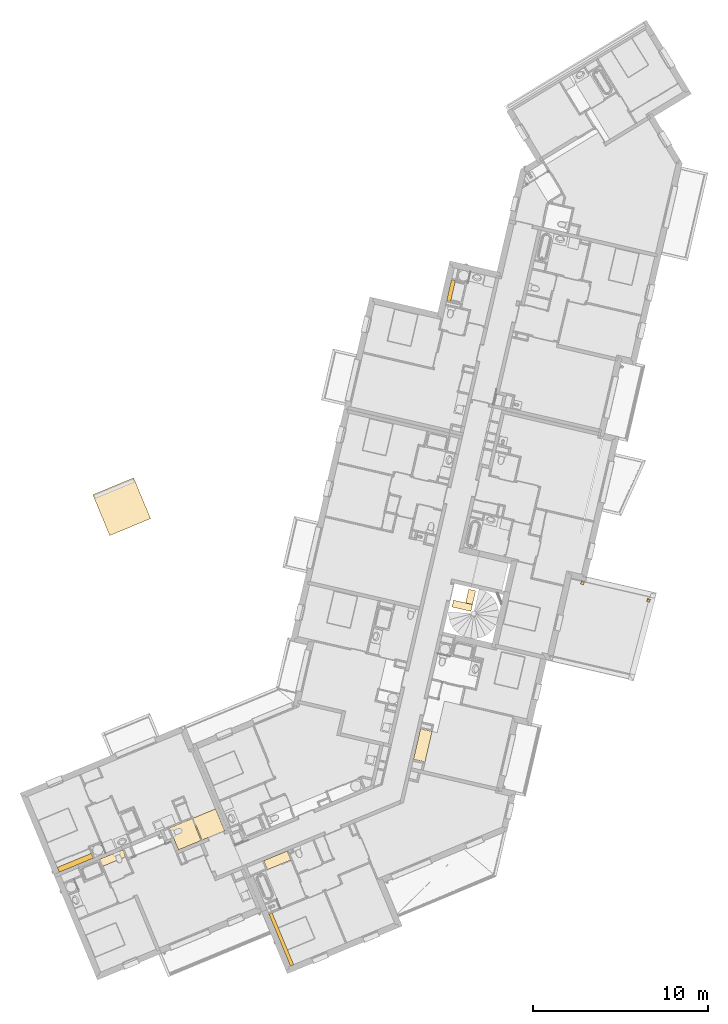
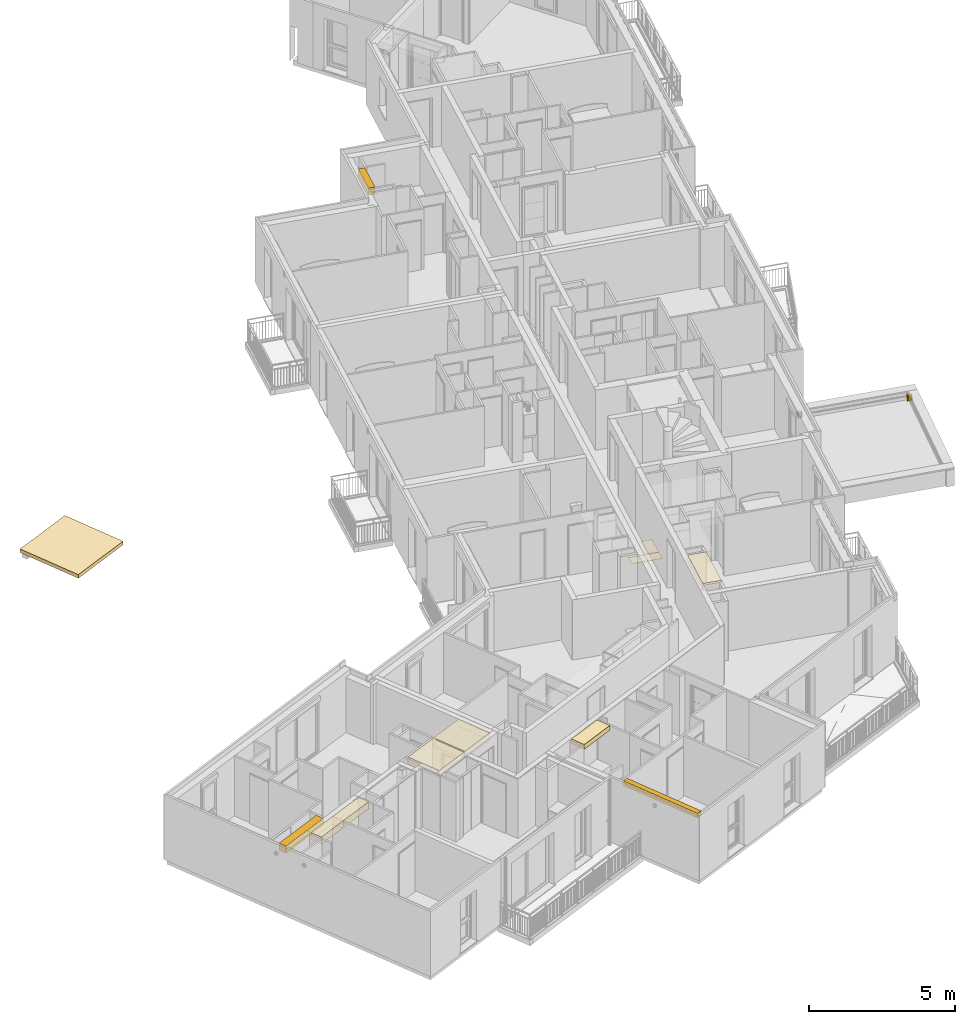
# One storey, part 59 of 90: 12 coverings.
"""IFC2X3 building model written with IfcOpenShell, lengths in metres."""

from ifc_helpers import new_model, entity, si_unit, converted_unit, derived_unit, money_unit, direction, frame, origin_with_axes, place, context, subcontext, project, spatial, faceted_brep, source, transform, mapped, material, type_object, element, save


model = new_model("IFC2X3")

# Units and contexts
model_context = context("Model", 3, precision=1e-05, world=origin_with_axes(), true_north=direction((0.0, 1.0)))
body_context = subcontext(model_context, "Body", "Model", "MODEL_VIEW")
ifc_project = project(units=[si_unit("LENGTHUNIT", "METRE"), si_unit("AREAUNIT", "SQUARE_METRE"), si_unit("VOLUMEUNIT", "CUBIC_METRE"), converted_unit("PLANEANGLEUNIT", "DEGREE", entity("IfcPlaneAngleMeasure", 0.0174532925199), si_unit("PLANEANGLEUNIT", "RADIAN"), dimensions=[0, 0, 0, 0, 0, 0, 0]), si_unit("SOLIDANGLEUNIT", "STERADIAN"), money_unit("EUR"), converted_unit("TIMEUNIT", "Year", entity("IfcTimeMeasure", 31556926.0), si_unit("TIMEUNIT", "SECOND"), dimensions=[0, 0, 1, 0, 0, 0, 0]), si_unit("MASSUNIT", "GRAM", prefix="KILO"), si_unit("THERMODYNAMICTEMPERATUREUNIT", "DEGREE_CELSIUS"), si_unit("LUMINOUSINTENSITYUNIT", "LUMEN"), si_unit("ENERGYUNIT", "JOULE", prefix="MEGA"), derived_unit("THERMALCONDUCTANCEUNIT", [(si_unit("POWERUNIT", "WATT"), 1), (si_unit("LENGTHUNIT", "METRE"), -1), (si_unit("THERMODYNAMICTEMPERATUREUNIT", "KELVIN"), -1)]), derived_unit("SPECIFICHEATCAPACITYUNIT", [(si_unit("ENERGYUNIT", "JOULE"), 1), (si_unit("MASSUNIT", "GRAM", prefix="KILO"), -1), (si_unit("THERMODYNAMICTEMPERATUREUNIT", "KELVIN"), -1)]), derived_unit("MASSDENSITYUNIT", [(si_unit("MASSUNIT", "GRAM", prefix="KILO"), 1), (si_unit("VOLUMEUNIT", "CUBIC_METRE"), -1)])], contexts=[model_context])

# Site, building, storey
site_placement = place(None, origin_with_axes())
site = spatial("IfcSite", under=ifc_project, at=site_placement, Name="Site", CompositionType="ELEMENT")
building_placement = place(site_placement, origin_with_axes())
building = spatial("IfcBuilding", under=site, at=building_placement, Name="Bâtiment", CompositionType="ELEMENT")
storey_placement = place(building_placement, frame((0.0, 0.0, 2.72), z_axis=(0.0, 0.0, 1.0), x_axis=(1.0, 0.0, 0.0)))
storey = spatial("IfcBuildingStorey", under=building, at=storey_placement, Name="R+1", CompositionType="ELEMENT", Elevation=2.72)

# Coverings
ifc_material_1 = material(Name="Volume - Etude")
covering_type_1 = type_object("IfcCoveringType", Name="Evacuation EP terrasse", PredefinedType="FLOORING")
shared_shape_1 = source(origin_with_axes(), body_context, "Body", "Brep", [
    faceted_brep([(0.0522327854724, 0.0878658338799, 0.2), (0.0522327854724, 0.0878658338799, 0.0), (0.058702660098, 0.0767838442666, 0.0), (0.058702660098, 0.0767838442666, 0.2), (0.0477467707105, 0.0998885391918, 0.2), (0.0477467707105, 0.0998885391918, 0.0), (0.045375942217, 0.1125, 0.0), (0.0, 0.1125, 0.0), (0.0, 0.1275, 0.0), (0.045375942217, 0.1275, 0.0), (0.0477467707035, 0.140111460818, 0.0), (0.0522327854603, 0.15213416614, 0.0), (0.0587026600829, 0.163216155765, 0.0), (0.066966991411, 0.173033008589, 0.0), (0.0767838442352, 0.181297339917, 0.0), (0.0878658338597, 0.18776721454, 0.0), (0.0998885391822, 0.192253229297, 0.0), (0.1125, 0.194624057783, 0.0), (0.1125, 0.24, 0.0), (0.1275, 0.24, 0.0), (0.1275, 0.194624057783, 0.0), (0.140111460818, 0.192253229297, 0.0), (0.15213416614, 0.18776721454, 0.0), (0.163216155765, 0.181297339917, 0.0), (0.173033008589, 0.173033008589, 0.0), (0.181297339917, 0.163216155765, 0.0), (0.18776721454, 0.15213416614, 0.0), (0.192253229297, 0.140111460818, 0.0), (0.194624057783, 0.1275, 0.0), (0.24, 0.1275, 0.0), (0.24, 0.1125, 0.0), (0.194624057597, 0.1125, 0.0), (0.192253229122, 0.099888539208, 0.0), (0.187767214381, 0.0878658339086, 0.0), (0.181297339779, 0.0767838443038, 0.0), (0.173033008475, 0.0669669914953, 0.0), (0.163216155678, 0.058702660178, 0.0), (0.152134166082, 0.0522327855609, 0.0), (0.140111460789, 0.0477467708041, 0.0), (0.1275, 0.045375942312, 0.0), (0.1275, 0.0, 0.0), (0.1125, 0.0, 0.0), (0.1125, 0.0453759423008, 0.0), (0.0998885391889, 0.0477467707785, 0.0), (0.0878658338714, 0.0522327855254, 0.0), (0.07678384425, 0.0587026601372, 0.0), (0.066966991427, 0.066966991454, 0.0), (0.066966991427, 0.066966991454, 0.2), (0.07678384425, 0.0587026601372, 0.2), (0.0878658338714, 0.0522327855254, 0.2), (0.0998885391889, 0.0477467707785, 0.2), (0.1125, 0.0453759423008, 0.2), (0.1125, 0.0, 0.2), (0.1275, 0.0, 0.2), (0.1275, 0.045375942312, 0.2), (0.140111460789, 0.0477467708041, 0.2), (0.152134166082, 0.0522327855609, 0.2), (0.163216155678, 0.058702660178, 0.2), (0.173033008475, 0.0669669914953, 0.2), (0.181297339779, 0.0767838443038, 0.2), (0.187767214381, 0.0878658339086, 0.2), (0.192253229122, 0.099888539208, 0.2), (0.194624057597, 0.1125, 0.2), (0.24, 0.1125, 0.2), (0.24, 0.1275, 0.2), (0.194624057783, 0.1275, 0.2), (0.192253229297, 0.140111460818, 0.2), (0.18776721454, 0.15213416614, 0.2), (0.181297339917, 0.163216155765, 0.2), (0.173033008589, 0.173033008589, 0.2), (0.163216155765, 0.181297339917, 0.2), (0.15213416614, 0.18776721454, 0.2), (0.140111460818, 0.192253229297, 0.2), (0.1275, 0.194624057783, 0.2), (0.1275, 0.24, 0.2), (0.1125, 0.24, 0.2), (0.1125, 0.194624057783, 0.2), (0.0998885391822, 0.192253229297, 0.2), (0.0878658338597, 0.18776721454, 0.2), (0.0767838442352, 0.181297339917, 0.2), (0.066966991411, 0.173033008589, 0.2), (0.0587026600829, 0.163216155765, 0.2), (0.0522327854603, 0.15213416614, 0.2), (0.0477467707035, 0.140111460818, 0.2), (0.045375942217, 0.1275, 0.2), (0.0, 0.1275, 0.2), (0.0, 0.1125, 0.2), (0.045375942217, 0.1125, 0.2)], [[[0, 1, 2, 3]], [[4, 5, 1, 0]], [[1, 5, 6, 7, 8, 9, 10, 11, 12, 13, 14, 15, 16, 17, 18, 19, 20, 21, 22, 23, 24, 25, 26, 27, 28, 29, 30, 31, 32, 33, 34, 35, 36, 37, 38, 39, 40, 41, 42, 43, 44, 45, 46, 2]], [[46, 47, 3, 2]], [[4, 0, 3, 47, 48, 49, 50, 51, 52, 53, 54, 55, 56, 57, 58, 59, 60, 61, 62, 63, 64, 65, 66, 67, 68, 69, 70, 71, 72, 73, 74, 75, 76, 77, 78, 79, 80, 81, 82, 83, 84, 85, 86, 87]], [[5, 4, 87, 6]], [[87, 86, 7, 6]], [[86, 85, 8, 7]], [[9, 8, 85, 84]], [[9, 84, 83, 10]], [[82, 11, 10, 83]], [[11, 82, 81, 12]], [[12, 81, 80, 13]], [[13, 80, 79, 14]], [[14, 79, 78, 15]], [[15, 78, 77, 16]], [[16, 77, 76, 17]], [[76, 75, 18, 17]], [[75, 74, 19, 18]], [[73, 20, 19, 74]], [[72, 21, 20, 73]], [[21, 72, 71, 22]], [[22, 71, 70, 23]], [[23, 70, 69, 24]], [[24, 69, 68, 25]], [[67, 26, 25, 68]], [[66, 27, 26, 67]], [[66, 65, 28, 27]], [[29, 28, 65, 64]], [[64, 63, 30, 29]], [[62, 31, 30, 63]], [[61, 32, 31, 62]], [[60, 33, 32, 61]], [[59, 34, 33, 60]], [[58, 35, 34, 59]], [[57, 36, 35, 58]], [[56, 37, 36, 57]], [[55, 38, 37, 56]], [[39, 38, 55, 54]], [[53, 40, 39, 54]], [[52, 41, 40, 53]], [[51, 42, 41, 52]], [[42, 51, 50, 43]], [[49, 44, 43, 50]], [[44, 49, 48, 45]], [[47, 46, 45, 48]]]),
])
for number, where, z_axis, x_axis, name in (
    (1, (-3.47564617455, -5.87574596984, 0.0), (0.0, 0.0, 1.0), (0.383112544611, -0.923701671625, 0.0), "MOB-004"),
    (2, (0.291376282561, -6.87857062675, 0.0), (0.0, 0.0, 1.0), (0.383112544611, -0.923701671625, 0.0), "MOB-004"),
):
    element("IfcCovering", number, at=place(storey_placement, frame(where, z_axis=z_axis, x_axis=x_axis)), inside=storey, type_object=covering_type_1, material=ifc_material_1, Name=name, PredefinedType="FLOORING", context=body_context, shape_type="MappedRepresentation", body=[
        mapped(shared_shape_1, transform((0.0, 0.0, 0.0))),
    ])
ifc_material_2 = material(Name="Plastique - PVC")
covering_type_2 = type_object("IfcCoveringType", Name="Bande Podotactile", PredefinedType="FLOORING")
shared_shape_2 = source(origin_with_axes(), body_context, "Body", "Brep", [
    faceted_brep([(0.0, 0.4, 0.0), (0.0, 0.0, 0.0), (0.0, 0.0, 0.005), (0.0, 0.4, 0.005), (1.1, 0.4, 0.0), (1.1, 0.0, 0.0), (1.1, 0.0, 0.005), (1.1, 0.4, 0.005)], [[[0, 1, 2, 3]], [[0, 4, 5, 1]], [[1, 5, 6, 2]], [[3, 2, 6, 7]], [[4, 0, 3, 7]], [[5, 4, 7, 6]]]),
])
covering_1_placement = place(storey_placement, frame((-9.5945363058, -7.17482237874, -2.72), z_axis=(0.0, 0.0, 1.0), x_axis=(-0.974387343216, 0.224876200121, 0.0)))
element("IfcCovering", 3, at=covering_1_placement, inside=storey, type_object=covering_type_2, material=ifc_material_2, Name="Bande podotactile", PredefinedType="FLOORING", context=body_context, shape_type="MappedRepresentation", body=[
    mapped(shared_shape_2, transform((0.0, 0.0, 0.0))),
])
shared_shape_3 = source(origin_with_axes(), body_context, "Body", "Brep", [
    faceted_brep([(0.0, 0.4, 0.0), (0.0, 0.0, 0.0), (0.0, 0.0, 0.005), (0.0, 0.4, 0.005), (0.8, 0.4, 0.0), (0.8, 0.0, 0.0), (0.8, 0.0, 0.005), (0.8, 0.4, 0.005)], [[[0, 1, 2, 3]], [[0, 4, 5, 1]], [[1, 5, 6, 2]], [[3, 2, 6, 7]], [[4, 0, 3, 7]], [[5, 4, 7, 6]]]),
])
covering_2_placement = place(storey_placement, frame((-9.5945363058, -7.17482237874, -2.72), z_axis=(0.0, 0.0, 1.0), x_axis=(0.224876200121, 0.974387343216, 0.0)))
element("IfcCovering", 4, at=covering_2_placement, inside=storey, type_object=covering_type_2, material=ifc_material_2, Name="Bande podotactile", PredefinedType="FLOORING", context=body_context, shape_type="MappedRepresentation", body=[
    mapped(shared_shape_3, transform((0.0, 0.0, 0.0))),
])
ifc_material_3 = material(Name="Finition int - Plaque de plâtre")
covering_type_3 = type_object("IfcCoveringType", Name="Finition int - Plaque de plâtre 200", PredefinedType="CEILING")
covering_3_placement = place(storey_placement, frame((-21.2015068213, -24.8366893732, 2.5), z_axis=(0.0, 0.0, 1.0), x_axis=(1.0, 0.0, 0.0)))
element("IfcCovering", 5, at=covering_3_placement, inside=storey, type_object=covering_type_3, material=ifc_material_3, Name="Dalle_003", PredefinedType="CEILING", context=body_context, shape_type="Brep", body=[
    faceted_brep([(1.22787570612, -2.96046385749, 0.0), (0.0, 0.0, 0.0), (0.0, 0.0, -0.2), (1.22787570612, -2.96046385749, -0.2), (1.41261604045, -2.88384134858, 0.0), (0.184740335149, 0.0766225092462, 0.0), (0.184740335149, 0.0766225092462, -0.2), (1.41261604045, -2.88384134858, -0.2)], [[[0, 1, 2, 3]], [[4, 5, 1, 0]], [[1, 5, 6, 2]], [[7, 3, 2, 6]], [[4, 0, 3, 7]], [[5, 4, 7, 6]]]),
])
covering_4_placement = place(storey_placement, frame((-20.7544619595, -21.4771963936, 2.5), z_axis=(0.0, 0.0, 1.0), x_axis=(1.0, 0.0, 0.0)))
element("IfcCovering", 6, at=covering_4_placement, inside=storey, type_object=covering_type_3, material=ifc_material_3, Name="Dalle_003", PredefinedType="CEILING", context=body_context, shape_type="Brep", body=[
    faceted_brep([(-0.738961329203, -0.306490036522, 0.0), (-0.738961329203, -0.306490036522, -0.2), (-0.525222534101, -0.82182392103, -0.2), (-0.525222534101, -0.82182392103, 0.0), (0.59394017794, 0.246341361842, 0.0), (0.59394017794, 0.246341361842, -0.2), (0.807678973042, -0.268992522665, -0.2), (0.807678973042, -0.268992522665, 0.0)], [[[0, 1, 2, 3]], [[4, 5, 1, 0]], [[1, 5, 6, 2]], [[3, 2, 6, 7]], [[4, 0, 3, 7]], [[7, 6, 5, 4]]]),
])
covering_type_4 = type_object("IfcCoveringType", Name="Finition int - Plaque de plâtre 300", PredefinedType="CEILING")
covering_5_placement = place(storey_placement, frame((-12.2998463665, -16.1539069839, 2.5), z_axis=(0.0, 0.0, 1.0), x_axis=(1.0, 0.0, 0.0)))
element("IfcCovering", 7, at=covering_5_placement, inside=storey, type_object=covering_type_4, material=ifc_material_3, Name="Dalle_004", PredefinedType="CEILING", context=body_context, shape_type="Brep", body=[
    faceted_brep([(0.401033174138, 1.73767454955, 0.0), (0.0, 0.0, 0.0), (0.0, 0.0, -0.3), (0.401033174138, 1.73767454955, -0.3), (-0.256678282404, 1.88946598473, 0.0), (-0.658161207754, 0.149842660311, 0.0), (-0.658161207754, 0.149842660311, -0.3), (-0.256678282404, 1.88946598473, -0.3)], [[[0, 1, 2, 3]], [[4, 5, 1, 0]], [[1, 5, 6, 2]], [[7, 3, 2, 6]], [[4, 0, 3, 7]], [[5, 4, 7, 6]]]),
])
covering_6_placement = place(storey_placement, frame((-31.2182617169, -21.6405615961, 2.5), z_axis=(0.0, 0.0, 1.0), x_axis=(1.0, 0.0, 0.0)))
element("IfcCovering", 8, at=covering_6_placement, inside=storey, type_object=covering_type_4, material=ifc_material_3, Name="Dalle_003", PredefinedType="CEILING", context=body_context, shape_type="Brep", body=[
    faceted_brep([(0.0, 0.0, 0.0), (0.0, 0.0, -0.3), (-0.11493376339, 0.277110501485, -0.3), (-0.11493376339, 0.277110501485, 0.0), (-1.93977350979, -0.804536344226, 0.0), (-1.93977350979, -0.804536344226, -0.3), (-2.05470727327, -0.527425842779, -0.3), (-2.05470727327, -0.527425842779, 0.0)], [[[0, 1, 2, 3]], [[4, 5, 1, 0]], [[2, 1, 5, 6]], [[3, 2, 6, 7]], [[4, 0, 3, 7]], [[7, 6, 5, 4]]]),
])
covering_7_placement = place(storey_placement, frame((-26.879904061, -19.9213060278, 2.5), z_axis=(0.0, 0.0, 1.0), x_axis=(1.0, 0.0, 0.0)))
element("IfcCovering", 9, at=covering_7_placement, inside=storey, type_object=covering_type_4, material=ifc_material_3, Name="Dalle_004", PredefinedType="CEILING", context=body_context, shape_type="Brep", body=[
    faceted_brep([(1.81130797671, -0.710256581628, 0.0), (1.33241729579, 0.444370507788, 0.0), (1.37675497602, 0.462759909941, 0.0), (1.85564565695, -0.69186717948, 0.0), (3.15159910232, -0.154360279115, 0.0), (2.63439716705, 1.0926369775, 0.0), (0.0, 0.0, 0.0), (0.517201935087, -1.24699725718, 0.0), (1.33241729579, 0.444370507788, -0.3), (1.81130797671, -0.710256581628, -0.3), (1.37675497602, 0.462759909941, -0.3), (1.85564565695, -0.69186717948, -0.3), (3.15159910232, -0.154360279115, -0.3), (2.63439716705, 1.0926369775, -0.3), (0.0, 0.0, -0.3), (0.517201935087, -1.24699725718, -0.3)], [[[0, 1, 2, 3, 4, 5, 6, 7]], [[8, 1, 0, 9]], [[10, 2, 1, 8]], [[10, 11, 3, 2]], [[4, 3, 11, 12]], [[13, 5, 4, 12]], [[6, 5, 13, 14]], [[7, 6, 14, 15]], [[15, 9, 0, 7]], [[10, 8, 9, 15, 14, 13, 12, 11]]]),
])
covering_8_placement = place(storey_placement, frame((-32.0155973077, -22.176956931, 2.51), z_axis=(0.0, 0.0, 1.0), x_axis=(1.0, 0.0, 0.0)))
element("IfcCovering", 10, at=covering_8_placement, inside=storey, type_object=covering_type_4, material=ifc_material_3, Name="Dalle_004", PredefinedType="CEILING", context=body_context, shape_type="Brep", body=[
    faceted_brep([(0.172017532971, -0.414742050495, -0.3), (1.29246765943, 0.0499734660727, -0.3), (1.29246765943, 0.0499734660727, -0.01), (1.33680533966, 0.0683628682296, -0.01), (1.33680533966, 0.0683628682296, -0.3), (2.64199580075, 0.609700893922, -0.3), (2.64199580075, 0.609700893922, 0.0), (0.172017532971, -0.414742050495, 0.0), (1.1686189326, 0.473867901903, -0.3), (1.12428125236, 0.455478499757, -0.3), (0.0, 0.0, -0.3), (2.47380939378, 1.01520592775, -0.3), (1.12428125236, 0.455478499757, -0.01), (1.1686189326, 0.473867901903, -0.01), (2.47380939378, 1.01520592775, 0.0), (0.0, 0.0, 0.0)], [[[0, 1, 2, 3, 4, 5, 6, 7]], [[8, 9, 1, 0, 10, 11, 5, 4]], [[12, 2, 1, 9]], [[13, 3, 2, 12]], [[8, 4, 3, 13]], [[14, 6, 5, 11]], [[6, 14, 15, 7]], [[7, 15, 10, 0]], [[12, 9, 8, 13]], [[15, 14, 11, 10]]]),
])
covering_9_placement = place(storey_placement, frame((-10.7922800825, 11.3468418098, 2.5), z_axis=(0.0, 0.0, 1.0), x_axis=(1.0, 0.0, 0.0)))
element("IfcCovering", 11, at=covering_9_placement, inside=storey, type_object=covering_type_4, material=ifc_material_3, Name="Dalle_003", PredefinedType="CEILING", context=body_context, shape_type="Brep", body=[
    faceted_brep([(-0.272100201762, -1.17900868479, 0.0), (0.0, 0.0, 0.0), (0.0, 0.0, -0.3), (-0.272100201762, -1.17900868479, -0.3), (-0.0431191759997, -1.23185459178, 0.0), (0.22898102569, -0.0528459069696, 0.0), (0.22898102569, -0.0528459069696, -0.3), (-0.0431191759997, -1.23185459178, -0.3)], [[[0, 1, 2, 3]], [[4, 5, 1, 0]], [[1, 5, 6, 2]], [[7, 3, 2, 6]], [[4, 0, 3, 7]], [[5, 4, 7, 6]]]),
])
ifc_material_4 = material(Name="Béton")
covering_type_5 = type_object("IfcCoveringType", Name="Béton 150", PredefinedType="INSULATION")
covering_10_placement = place(storey_placement, frame((-30.2820935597, -3.24250287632, 1.2), z_axis=(0.0, 0.0, 1.0), x_axis=(1.0, 0.0, 0.0)))
element("IfcCovering", 12, at=covering_10_placement, inside=storey, type_object=covering_type_5, material=ifc_material_4, Name="Dalle_005", PredefinedType="INSULATION", context=body_context, shape_type="Brep", body=[
    faceted_brep([(0.0, 0.0, 0.0), (0.0, 0.0, -0.15), (2.3277282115, 0.96544361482, -0.15), (2.3277282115, 0.96544361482, 0.0), (-0.96544361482, 2.3277282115, 0.0), (-0.96544361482, 2.3277282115, -0.15), (1.36228459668, 3.29317182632, -0.15), (1.36228459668, 3.29317182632, 0.0)], [[[0, 1, 2, 3]], [[4, 5, 1, 0]], [[2, 1, 5, 6]], [[3, 2, 6, 7]], [[4, 0, 3, 7]], [[7, 6, 5, 4]]]),
])

save(model, "model.ifc")
